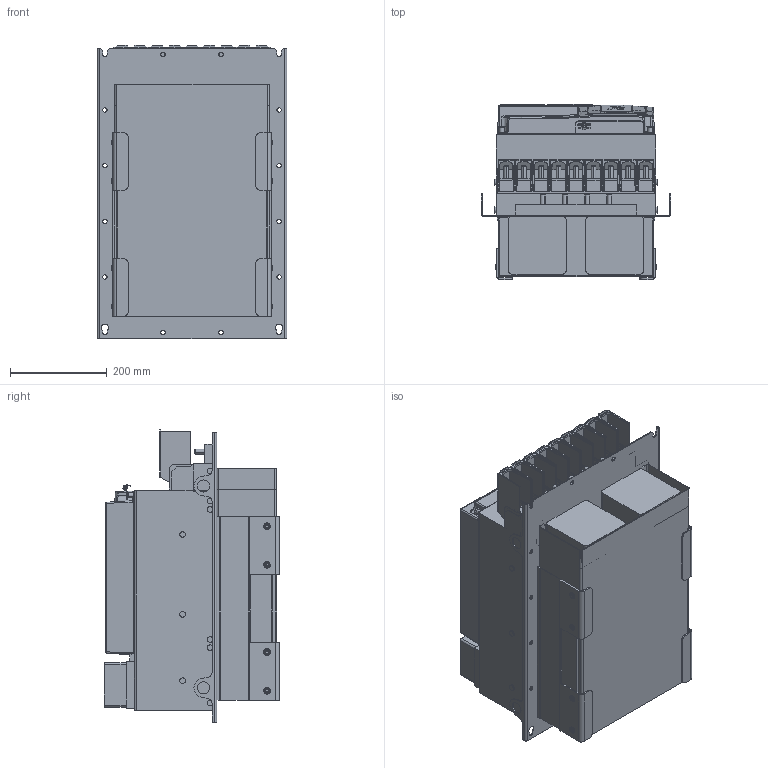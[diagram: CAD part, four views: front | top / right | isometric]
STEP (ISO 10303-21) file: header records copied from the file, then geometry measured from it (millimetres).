
FILE_DESCRIPTION (( 'STEP AP214' ), '1' );
FILE_NAME ('10061524_000.STEP', '2022-11-16T14:03:33', ( '' ), ( '' ), 'SwSTEP 2.0', 'SolidWorks 2022', '' );
FILE_SCHEMA (( 'AUTOMOTIVE_DESIGN' ));
Length unit declared in the file: millimetre
Products named in the file (15): Kundenmodell^10061502_000; 10045475_000_Gehäusebaugruppe F6-7 +Lüfterkarte (Kundenmodell); Kundenmodell^10043622_000; 10061502_000_Deckel (Kundenmodell); Kundenmodell^10044088_000; 10061524_000; Kundenmodell^10045475_000_Gehäusebaugruppe mit Lüfterkarte; 10061514_000_F6-7 Leistungsteil TR5 (Kundenmodell); 10043622_000_70F6 Klemme (Kundenmodell); Kundenmodell Leistungsteil F6-7 TR5^10061514_000; Kundenmodell^10035735_000; 10035735_000_Kundenmodell; Kundenmodell^10059764_000; 10044088_000_Kundenmodell; 10059764_000_Blindabdeckung (Kundenmodell)
Assembly tree (14 placements, depth 4):
  10061524_000
    10061514_000_F6-7 Leistungsteil TR5 (Kundenmodell)
      10043622_000_70F6 Klemme (Kundenmodell)
        Kundenmodell^10043622_000
      Kundenmodell Leistungsteil F6-7 TR5^10061514_000
    10045475_000_Gehäusebaugruppe F6-7 +Lüfterkarte (Kundenmodell)
      10061502_000_Deckel (Kundenmodell)
        Kundenmodell^10061502_000
      10044088_000_Kundenmodell
        Kundenmodell^10044088_000
      Kundenmodell^10045475_000_Gehäusebaugruppe mit Lüfterkarte
    10035735_000_Kundenmodell
      10059764_000_Blindabdeckung (Kundenmodell)
        Kundenmodell^10059764_000
      Kundenmodell^10035735_000
Bounding box: 392 x 361.9 x 606.26 mm (x, y, z)
Volume: 55725843.8 mm3; surface area: 2320127.1 mm2
Topology: 13 solids, 21 shells, 3534 faces, 9117 edges, 5654 vertices
Faces by surface type: plane 1797, cylinder 1084, bspline 296, sphere 172, cone 96, torus 89
Entity records: 114463 total; most frequent: CARTESIAN_POINT 30596, ORIENTED_EDGE 18014, DIRECTION 16470, EDGE_CURVE 9007, VECTOR 5666, LINE 5666, VERTEX_POINT 5651, AXIS2_PLACEMENT_3D 5402
